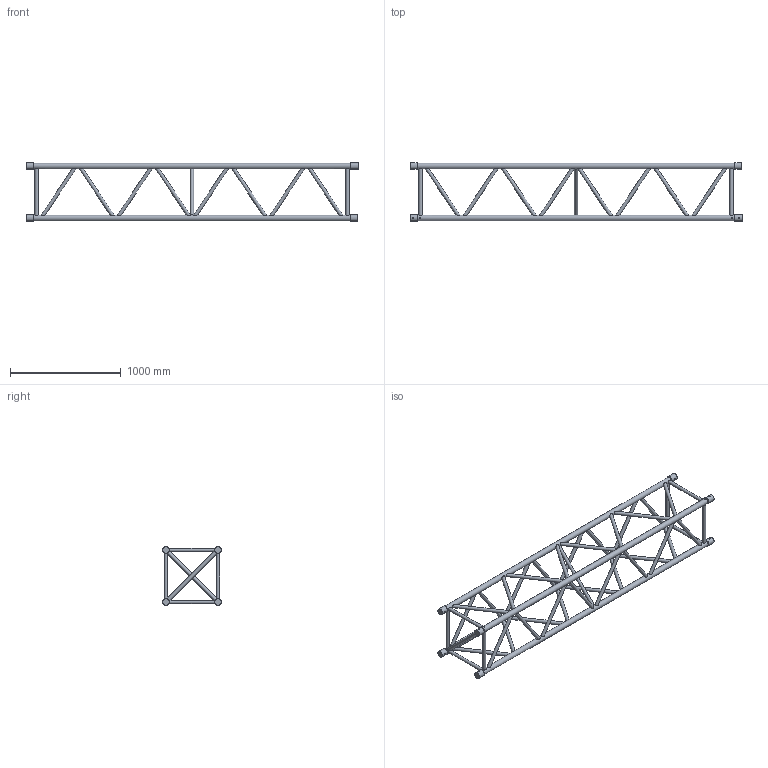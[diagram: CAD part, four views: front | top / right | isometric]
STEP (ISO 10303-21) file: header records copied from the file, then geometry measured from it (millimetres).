
FILE_DESCRIPTION(/* description */ (''),/* implementation_level */ '2;1');
FILE_NAME(/* name */ 'M:\Symbolen_NIEUW\STP\52-er truss\111110115.stp',/* time_stamp */ '2015-04-22T16:13:45+02:00',/* author */ ('Stephan'),/* organization */ (''),/* preprocessor_version */ 'ST-DEVELOPER v15.6',/* originating_system */ 'Autodesk Inventor 2015',/* authorisation */ '');
FILE_SCHEMA (('AUTOMOTIVE_DESIGN { 1 0 10303 214 3 1 1 }'));
Length unit declared in the file: millimetre
Products named in the file (1): 160024049
Bounding box: 3000 x 528.8 x 528.8 mm (x, y, z)
Volume: 39113146.1 mm3; surface area: 3964608.9 mm2
Topology: 7 solids, 7 shells, 361 faces, 925 edges, 578 vertices
Faces by surface type: plane 202, cylinder 119, cone 40
Full cylindrical faces by diameter (mm): 10 x8, 30 x43, 50 x4, 58.8 x8
Entity records: 14097 total; most frequent: CARTESIAN_POINT 5906, DIRECTION 1660, ORIENTED_EDGE 1492, AXIS2_PLACEMENT_3D 764, EDGE_CURVE 718, EDGE_LOOP 532, VERTEX_POINT 482, STYLED_ITEM 339
